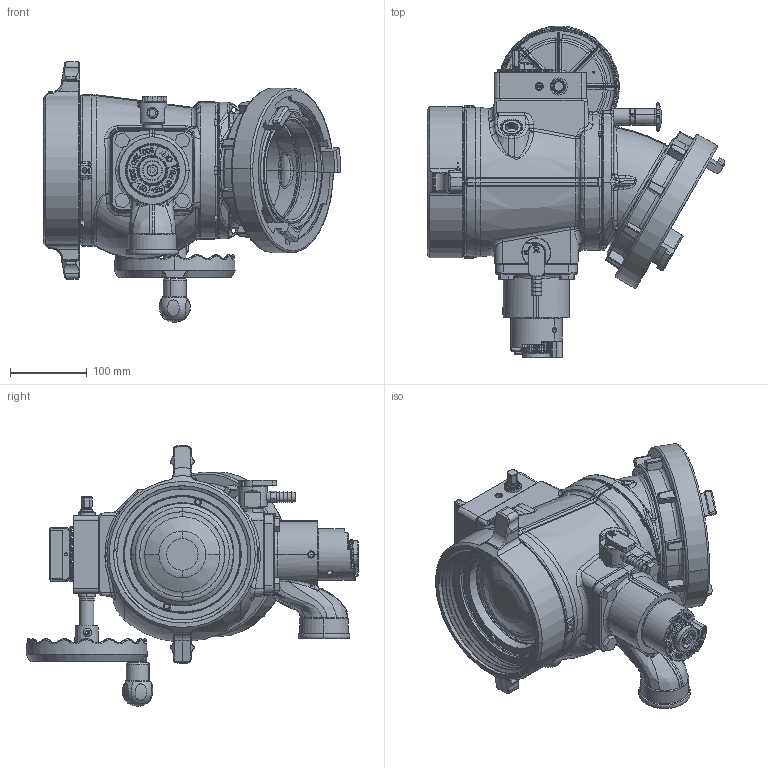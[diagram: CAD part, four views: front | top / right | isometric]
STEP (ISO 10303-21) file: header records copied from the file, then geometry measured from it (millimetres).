
FILE_DESCRIPTION (( 'STEP AP203' ), '1' );
FILE_NAME ('AX1SX-NX.step', '2014-05-13T19:23:20', ( 'user' ), ( '' ), 'SwSTEP 2.0', 'SolidWorks 2012', '' );
FILE_SCHEMA (( 'CONFIG_CONTROL_DESIGN' ));
Length unit declared in the file: inch
Products named in the file (1): AX1SX-NX
Bounding box: 387.95 x 432.92 x 339.79 mm (x, y, z)
Surface area: 752740.8 mm2 (no closed solid volume)
Topology: 0 solids, 139 shells, 2372 faces, 10233 edges, 7792 vertices
Faces by surface type: plane 716, bspline 565, cylinder 540, cone 294, torus 204, sphere 53
Entity records: 172196 total; most frequent: CARTESIAN_POINT 97228, ORIENTED_EDGE 15008, DIRECTION 13239, EDGE_CURVE 10184, VERTEX_POINT 7785, LINE 4735, VECTOR 4735, AXIS2_PLACEMENT_3D 4252
